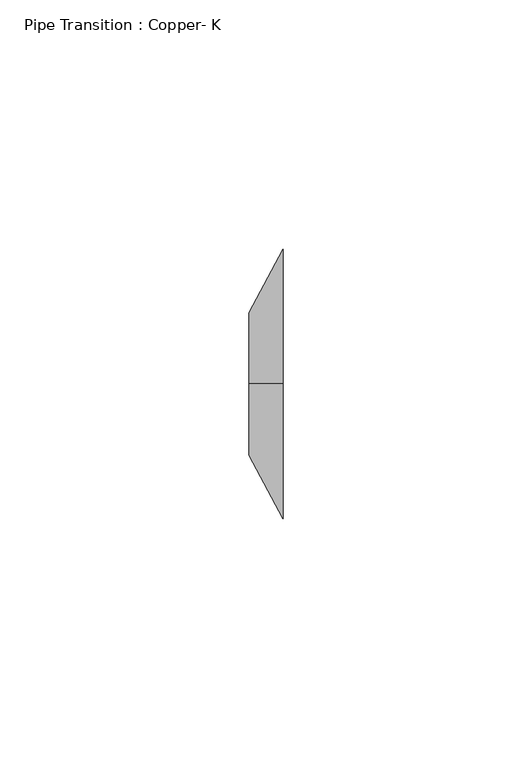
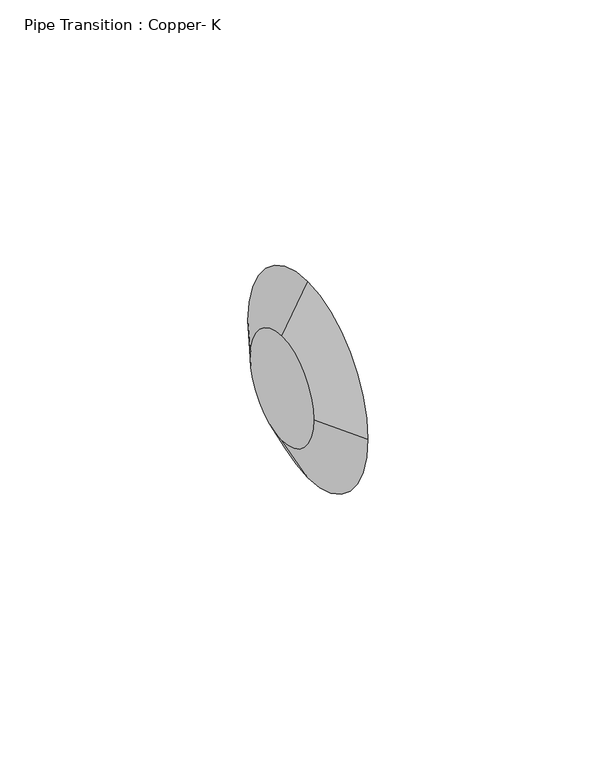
"""IFC4 building model written with IfcOpenShell, lengths in millimetres: pipe fitting geometry, Pipe Transition : Copper- K."""

from ifc_helpers import new_model, si_unit, frame, origin, place, context, project, spatial, polyline, circle_curve, source, transform, mapped, element, save
from ifc_brep_helpers import plane_surface, revolved_surface, advanced_brep


def pipe_transition_copper_k_5e01dc24(model_context):
    return source(origin(), model_context, "Body", "AdvancedBrep", [
        advanced_brep(
        [(6.746875, 0.0, 26.9875), (6.746875, -26.9875, 0.0), (6.746875, 0.0, -26.9875), (6.746875, 26.9875, 0.0), (0.0, 0.0, 14.2875), (0.0, 14.2875, 0.0), (0.0, 0.0, -14.2875), (0.0, -14.2875, 0.0)],
        [
            (0, 1, circle_curve(frame((6.746875, 0.0, 0.0), z_axis=(1.0, 0.0, 0.0), x_axis=(0.0, 0.0, 1.0)), 26.9875)),
            (1, 2, circle_curve(frame((6.746875, 0.0, 0.0), z_axis=(1.0, 0.0, 0.0), x_axis=(0.0, -1.0, 0.0)), 26.9875)),
            (2, 3, circle_curve(frame((6.746875, 0.0, 0.0), z_axis=(1.0, 0.0, 0.0), x_axis=(0.0, 0.0, -1.0)), 26.9875)),
            (3, 0, circle_curve(frame((6.746875, 0.0, 0.0), z_axis=(1.0, 0.0, 0.0), x_axis=(0.0, 1.0, 0.0)), 26.9875)),
            (4, 5, circle_curve(frame((0.0, 0.0, 0.0), z_axis=(-1.0, 0.0, 0.0), x_axis=(0.0, 1.0, 0.0)), 14.2875)),
            (5, 6, circle_curve(frame((0.0, 0.0, 0.0), z_axis=(-1.0, 0.0, 0.0), x_axis=(0.0, 0.0, -1.0)), 14.2875)),
            (6, 7, circle_curve(frame((0.0, 0.0, 0.0), z_axis=(-1.0, 0.0, 0.0), x_axis=(0.0, -1.0, 0.0)), 14.2875)),
            (7, 4, circle_curve(frame((0.0, 0.0, 0.0), z_axis=(-1.0, 0.0, 0.0), x_axis=(0.0, 0.0, 1.0)), 14.2875)),
            (7, 1),
            (0, 4),
            (6, 2),
            (5, 3),
        ],
        [
            plane_surface(frame((6.746875, 0.0, 0.0), z_axis=(1.0, 0.0, 0.0), x_axis=(0.0, -1.0, 0.0))),
            plane_surface(frame((0.0, 0.0, 0.0), z_axis=(-1.0, 0.0, 0.0), x_axis=(0.0, -1.0, 0.0))),
            revolved_surface(polyline([(0.0, -14.28750002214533, 0.0), (6.746874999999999, -26.9875, 0.0)]), (-7.5902344, 0.0, 0.0), (1.0, 0.0, 0.0)),
            revolved_surface(polyline([(0.0, 0.0, -14.28750002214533), (6.746874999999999, 0.0, -26.9875)]), (-7.5902344, 0.0, 0.0), (1.0, 0.0, 0.0)),
            revolved_surface(polyline([(0.0, 14.28750002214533, 0.0), (6.746874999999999, 26.9875, 0.0)]), (-7.5902344, 0.0, 0.0), (1.0, 0.0, 0.0)),
            revolved_surface(polyline([(0.0, 0.0, 14.28750002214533), (6.746874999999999, 0.0, 26.9875)]), (-7.5902344, 0.0, 0.0), (1.0, 0.0, 0.0)),
        ],
        [
            (0, [[1, 2, 3, 4]]),
            (1, [[5, 6, 7, 8]]),
            (2, [[-8, 9, -1, 10]]),
            (3, [[-7, 11, -2, -9]]),
            (4, [[-6, 12, -3, -11]]),
            (5, [[-5, -10, -4, -12]]),
        ],
    ),
        advanced_brep(
        [(6.746875, 0.0, 26.9875), (6.746875, -26.9875, 0.0), (6.746875, 0.0, -26.9875), (6.746875, 26.9875, 0.0), (0.0, 0.0, 14.2875), (0.0, 14.2875, 0.0), (0.0, 0.0, -14.2875), (0.0, -14.2875, 0.0)],
        [
            (0, 1, circle_curve(frame((6.746875, 0.0, 0.0), z_axis=(1.0, 0.0, -1.2427890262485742e-12), x_axis=(1.242771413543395e-12, 0.0, 1.0)), 26.9875)),
            (1, 2, circle_curve(frame((6.746875, 0.0, 0.0), z_axis=(1.0, 0.0, -1.1926330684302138e-12), x_axis=(0.0, -1.0, 0.0)), 26.9875)),
            (2, 3, circle_curve(frame((6.746875, 0.0, 0.0), z_axis=(1.0, 0.0, -1.9352791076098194e-12), x_axis=(-1.9352812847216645e-12, 0.0, -1.0)), 26.9875)),
            (3, 0, circle_curve(frame((6.746875, 0.0, 0.0), z_axis=(1.0, 0.0, 0.0), x_axis=(0.0, 1.0, 0.0)), 26.9875)),
            (4, 5, circle_curve(frame((0.0, 0.0, 0.0), z_axis=(-1.0, 0.0, 0.0), x_axis=(0.0, 1.0, 0.0)), 14.2875)),
            (5, 6, circle_curve(frame((0.0, 0.0, 0.0), z_axis=(-1.0, 0.0, 1.9352791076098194e-12), x_axis=(-1.9352812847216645e-12, 0.0, -1.0)), 14.2875)),
            (6, 7, circle_curve(frame((0.0, 0.0, 0.0), z_axis=(-1.0, 0.0, 1.1926330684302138e-12), x_axis=(0.0, -1.0, 0.0)), 14.2875)),
            (7, 4, circle_curve(frame((0.0, 0.0, 0.0), z_axis=(-1.0, 0.0, 1.2427890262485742e-12), x_axis=(1.242771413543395e-12, 0.0, 1.0)), 14.2875)),
            (7, 1),
            (0, 4),
            (6, 2),
            (5, 3),
        ],
        [
            plane_surface(frame((6.746875, 0.0, 0.0), z_axis=(1.0, 0.0, 0.0), x_axis=(0.0, -1.0, 0.0))),
            plane_surface(frame((0.0, 0.0, 0.0), z_axis=(-1.0, 0.0, 0.0), x_axis=(0.0, -1.0, 0.0))),
            revolved_surface(polyline([(-1.7755574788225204e-11, -14.287500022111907, 0.0), (6.746874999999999, -26.9875, 0.0)]), (-7.5902344, 0.0, 0.0), (1.0, 0.0, -1.2427890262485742e-12)),
            revolved_surface(polyline([(-1.7039702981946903e-11, 0.0, -14.287500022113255), (6.746874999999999, 0.0, -26.9875)]), (-7.5902344, 0.0, 0.0), (1.0, 0.0, -1.1926330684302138e-12)),
            revolved_surface(polyline([(0.0, 14.28750002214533, 0.0), (6.746875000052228, 26.98750000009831, 0.0)]), (-7.5902344, 0.0, 0.0), (1.0, 0.0, -1.9352791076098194e-12)),
            revolved_surface(polyline([(0.0, 0.0, 14.28750002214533), (6.746874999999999, 0.0, 26.9875)]), (-7.5902344, 0.0, 0.0), (1.0, 0.0, 0.0)),
        ],
        [
            (0, [[1, 2, 3, 4]]),
            (1, [[5, 6, 7, 8]]),
            (2, [[-8, 9, -1, 10]]),
            (3, [[-7, 11, -2, -9]]),
            (4, [[-6, 12, -3, -11]]),
            (5, [[-5, -10, -4, -12]]),
        ],
    ),
    ])


if __name__ == "__main__":
    model = new_model("IFC4")
    model_context = context("Model", 3, world=origin())
    ifc_project = project(units=[si_unit("LENGTHUNIT", "METRE", prefix="MILLI")], contexts=[model_context])
    site = spatial("IfcSite", under=ifc_project)
    building = spatial("IfcBuilding", under=site)
    placement = place(None, origin())
    pipe_transition_copper_k_shape = pipe_transition_copper_k_5e01dc24(model_context)
    element("IfcPipeFitting", 1, ObjectType="Pipe Transition : Copper- K", at=placement, inside=building, context=model_context, shape_type="MappedRepresentation", body=[
        mapped(pipe_transition_copper_k_shape, transform((0.0, 0.0, 0.0), x_axis=(1.0, 0.0, 0.0), y_axis=(0.0, 1.0, 0.0), z_axis=(0.0, 0.0, 1.0))),
    ])
    save(model, "model.ifc")
